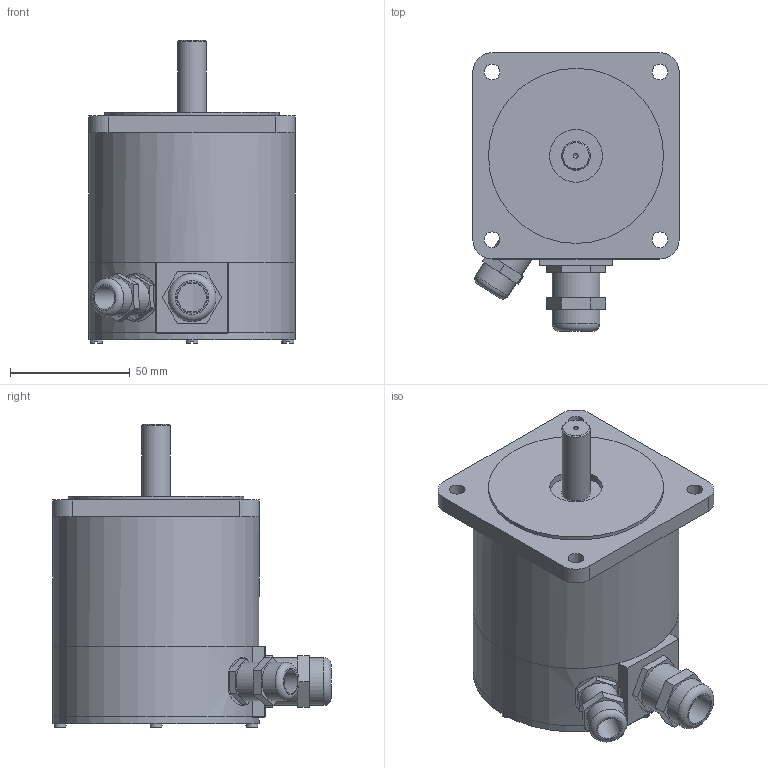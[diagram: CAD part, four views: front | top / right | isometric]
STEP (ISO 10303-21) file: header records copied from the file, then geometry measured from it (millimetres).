
FILE_DESCRIPTION((''),'2;1');
FILE_NAME('C:\Users\Reinhard\Documents\Inventor\Testschrittmotor\SM88\SM88.1-E50-KV.stp','2012-11-11T21:08:47',('Reinhard'),(''),'Autodesk Inventor 2012','Autodesk Inventor 2012','');
FILE_SCHEMA(('CONFIG_CONTROL_DESIGN'));
Length unit declared in the file: millimetre
Products named in the file (1): SM88
Bounding box: 86 x 115.99 x 126.4 mm (x, y, z)
Volume: 145312.1 mm3; surface area: 80914.7 mm2
Topology: 2 solids, 2 shells, 137 faces, 310 edges, 201 vertices
Faces by surface type: plane 84, cylinder 46, cone 3, sphere 2, torus 2
Full cylindrical faces by diameter (mm): 2 x1, 5 x4, 6.6 x4, 10 x1, 12 x3, 13 x2, 15 x1, 16 x2, 18.376 x1, 20 x3, 22 x1, 73 x1, 78 x2, 82 x1, 86 x2
Entity records: 3735 total; most frequent: CARTESIAN_POINT 724, DIRECTION 635, ORIENTED_EDGE 532, EDGE_CURVE 266, AXIS2_PLACEMENT_3D 244, EDGE_LOOP 209, VERTEX_POINT 191, VECTOR 147
